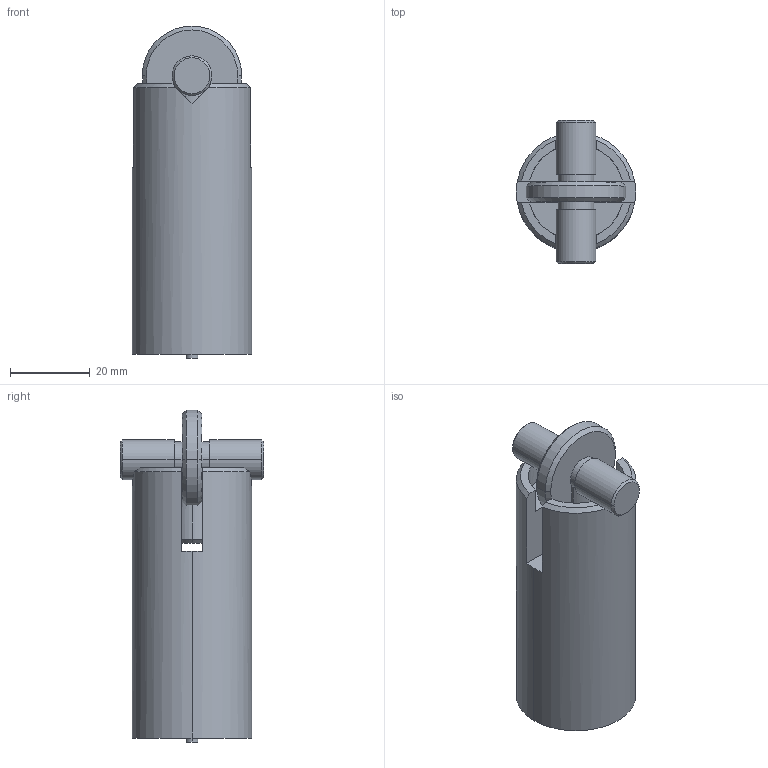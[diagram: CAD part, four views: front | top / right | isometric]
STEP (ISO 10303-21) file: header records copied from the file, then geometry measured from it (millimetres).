
FILE_DESCRIPTION(('Creo Elements/Direct Modeling STEP Export'),'2;1');
FILE_NAME('6902H用.stp','2018-10-12T19:20:43',(''),(''),'Creo Elements/Direct Modeling STEP processor for AP214 (Solid Model)','Creo Elements/Direct Modeling 18.1C 24-Feb-2013 (C) Parametric Technology GmbH','');
FILE_SCHEMA(('AUTOMOTIVE_DESIGN { 1 0 10303 214 1 1 1 1 }'));
Length unit declared in the file: millimetre
Products named in the file (7): 1.PRT; 2.PRT; _X2_03A6_X0_1.ASM; _X2_03A6_X0_25.PRT; _X2_30B230FC30B830B930BF30F330C.PRT; LSM-6902H_X2_7528_X0_.ASM; 6902H_.stp
Assembly tree (6 placements, depth 4):
  6902H_.stp
    LSM-6902H_X2_7528_X0_.ASM
      _X2_30B230FC30B830B930BF30F330C.PRT
      _X2_03A6_X0_25.PRT
      _X2_03A6_X0_1.ASM
        2.PRT
        1.PRT
Bounding box: 30 x 36 x 83.5 mm (x, y, z)
Volume: 47647.5 mm3; surface area: 12147.9 mm2
Topology: 4 solids, 4 shells, 82 faces, 194 edges, 126 vertices
Faces by surface type: plane 44, cylinder 24, cone 14
Entity records: 2462 total; most frequent: CARTESIAN_POINT 442, DIRECTION 388, ORIENTED_EDGE 388, EDGE_CURVE 194, AXIS2_PLACEMENT_3D 144, VERTEX_POINT 126, VECTOR 100, LINE 100
